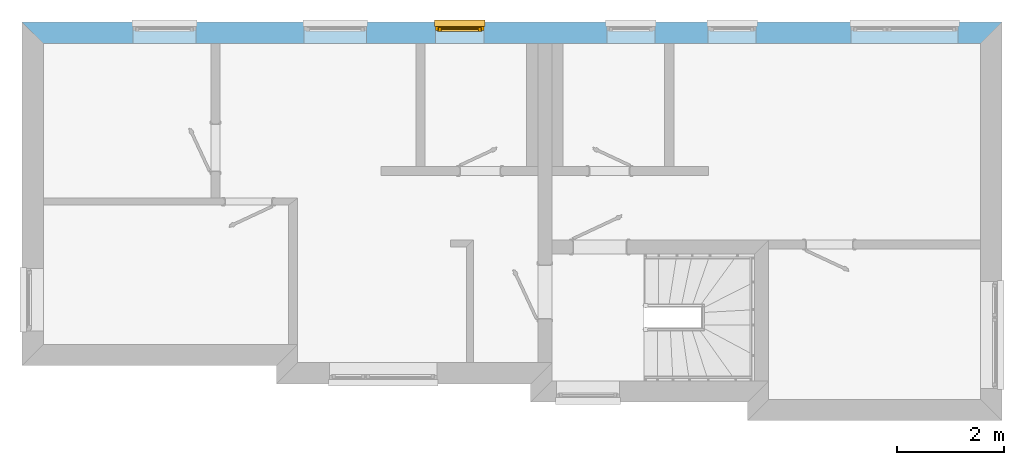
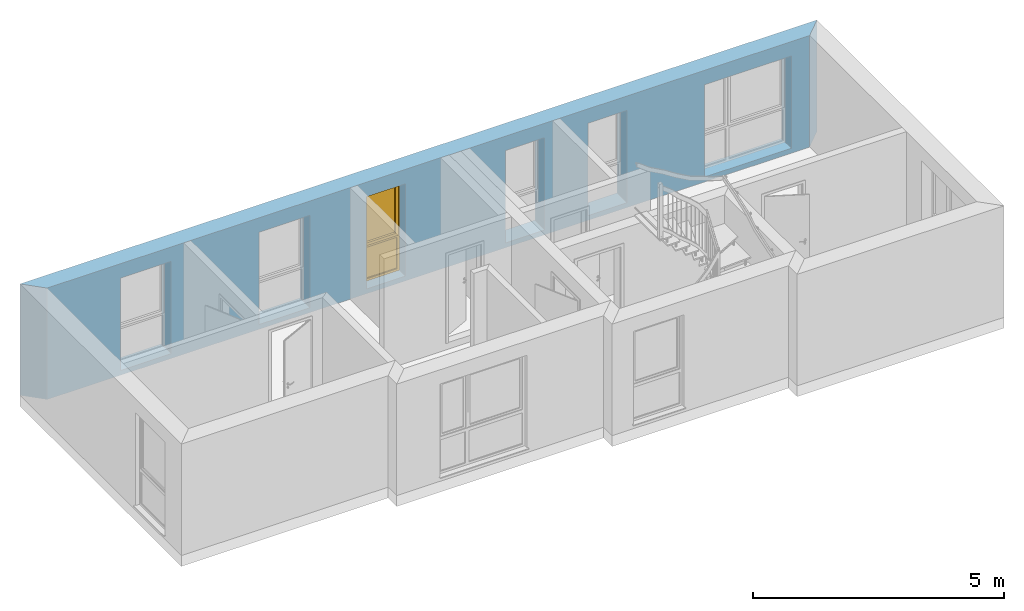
# One storey, part 13 of 16: 1 window, 6 openings, plus 1 element that does not belong to this part.
"""IFC2X3 building model written with IfcOpenShell, lengths in millimetres."""

import ifcopenshell
import ifcopenshell.guid

model = None  # the IFC model being written
_history = None  # IfcOwnerHistory: only IFC2X3 demands one
_inside = {}  # id of a spatial element -> (the spatial element, [elements in it])
_under = {}  # id of a project, library or spatial element -> (it, [spatial elements below it])
_declared = {}  # id of a project -> (the project, [libraries it declares])
_typed = {}  # id of a type object -> (the type object, [elements of that type])
_made_of = {}  # id of a material, layer set ... -> (it, [elements and type objects made of it])


def new_model(schema):
    """Start an empty IFC model of exactly this schema.

    Asked for "IFC4X3", IfcOpenShell would pick the latest addendum, in which some entities
    have other attributes; the version numbers below select the first issue.
    IFC2X3 requires an IfcOwnerHistory on every rooted entity: one is made here for all.
    """
    global model, _history
    if schema == "IFC4X3":
        model = ifcopenshell.file(schema_version=(4, 3, 0, 0))
    else:
        model = ifcopenshell.file(schema=schema)
    _inside.clear()
    _under.clear()
    _declared.clear()
    _typed.clear()
    _made_of.clear()
    _history = None
    if model.schema == "IFC2X3":
        org = make("IfcOrganization", Name="unknown")
        user = make(
            "IfcPersonAndOrganization",
            ThePerson=make("IfcPerson", FamilyName="unknown"),
            TheOrganization=org,
        )
        app = make(
            "IfcApplication",
            ApplicationDeveloper=org,
            Version="unknown",
            ApplicationFullName="unknown",
            ApplicationIdentifier="unknown",
        )
        _history = make(
            "IfcOwnerHistory",
            OwningUser=user,
            OwningApplication=app,
            ChangeAction="ADDED",
            CreationDate=0,
        )
    return model


def make(cls, **values):
    """One entity of the class cls with the attributes given. An attribute that is None is left unset."""
    return model.create_entity(
        cls, **{name: value for name, value in values.items() if value is not None}
    )


def rooted(cls, **values):
    """An entity with a GlobalId (a new one), such as an element, a storey or a relation."""
    return make(cls, GlobalId=ifcopenshell.guid.new(), OwnerHistory=_history, **values)


def si_unit(unit_type, name, prefix=None):
    """IfcSIUnit, for example si_unit("LENGTHUNIT", "METRE", prefix="MILLI")."""
    return make("IfcSIUnit", UnitType=unit_type, Prefix=prefix, Name=name)


def assignment(units):
    """IfcUnitAssignment: the units of a project."""
    return None if units is None else make("IfcUnitAssignment", Units=units)


def point(xyz):
    """IfcCartesianPoint."""
    return None if xyz is None else make("IfcCartesianPoint", Coordinates=xyz)


def direction(xyz):
    """IfcDirection."""
    return None if xyz is None else make("IfcDirection", DirectionRatios=xyz)


def frame(location, z_axis=None, x_axis=None):
    """IfcAxis2Placement3D, a coordinate frame: its origin and axes. An axis left out is left unset."""
    return make(
        "IfcAxis2Placement3D",
        Location=point(location),
        Axis=direction(z_axis),
        RefDirection=direction(x_axis),
    )


def origin_with_axes():
    """The frame at (0, 0, 0) with the z axis (0, 0, 1) and the x axis (1, 0, 0) written out."""
    return frame((0.0, 0.0, 0.0), z_axis=(0.0, 0.0, 1.0), x_axis=(1.0, 0.0, 0.0))


def place(relative_to, where):
    """IfcLocalPlacement: puts the frame where relative to a parent placement (None: the world)."""
    return make(
        "IfcLocalPlacement", PlacementRelTo=relative_to, RelativePlacement=where
    )


def context(
    kind, dimensions, precision=None, world=None, true_north=None, identifier=None
):
    """IfcGeometricRepresentationContext, for example the 3D "Model" context."""
    return make(
        "IfcGeometricRepresentationContext",
        ContextIdentifier=identifier,
        ContextType=kind,
        CoordinateSpaceDimension=dimensions,
        Precision=precision,
        WorldCoordinateSystem=world,
        TrueNorth=true_north,
    )


def project(units=None, contexts=None):
    """IfcProject with its units and contexts."""
    return rooted(
        "IfcProject",
        Name="project",
        RepresentationContexts=contexts,
        UnitsInContext=assignment(units),
    )


def spatial(cls, under=None, at=None, **own):
    """A site, building, storey or space (cls), placed at a placement, below another one or the project."""
    s = rooted(cls, ObjectPlacement=at, **own)
    if under is not None:
        _under.setdefault(under.id(), (under, []))[1].append(s)
    return s


def faces_of(points, faces, orient=None, outer=None):
    """IfcFace entities. A face is a list of loops; a loop is a list of indices into points, from 0.

    orient and outer hold one flag for each loop. By default every Orientation is true, the
    first loop of a face is its IfcFaceOuterBound and the others are IfcFaceBound.
    """
    made = []
    for i, loops in enumerate(faces):
        bounds = []
        for j, loop in enumerate(loops):
            is_outer = j == 0 if outer is None else outer[i][j]
            bounds.append(
                make(
                    "IfcFaceOuterBound" if is_outer else "IfcFaceBound",
                    Bound=make("IfcPolyLoop", Polygon=[points[k] for k in loop]),
                    Orientation=True if orient is None else orient[i][j],
                )
            )
        made.append(make("IfcFace", Bounds=bounds))
    return made


def faceted_brep(points, faces, orient=None, outer=None, voids=None):
    """IfcFacetedBrep: a solid bounded by flat faces; with voids (closed shells), ...WithVoids."""
    shared = [point(p) for p in points]
    hull = make("IfcClosedShell", CfsFaces=faces_of(shared, faces, orient, outer))
    if voids is None:
        return make("IfcFacetedBrep", Outer=hull)
    return make(
        "IfcFacetedBrepWithVoids",
        Outer=hull,
        Voids=[
            make(cls, CfsFaces=faces_of(shared, fs, o, b)) for cls, fs, o, b in voids
        ],
    )


def shape(context_of_items, identifier, shape_type, items):
    """IfcShapeRepresentation: the items that make up one representation, for example the "Body"."""
    return make(
        "IfcShapeRepresentation",
        ContextOfItems=context_of_items,
        RepresentationIdentifier=identifier,
        RepresentationType=shape_type,
        Items=items,
    )


def material(Name=None, Category=None):
    """IfcMaterial."""
    return make("IfcMaterial", Name=Name, Category=Category)


def layer(
    of_material, thickness, ventilated=None, Name=None, Category=None, Priority=None
):
    """IfcMaterialLayer: one layer of a wall or slab, of a material (None: an air gap)."""
    return make(
        "IfcMaterialLayer",
        Material=of_material,
        LayerThickness=thickness,
        IsVentilated=ventilated,
        Name=Name,
        Category=Category,
        Priority=Priority,
    )


def layer_set(layers, Name=None):
    """IfcMaterialLayerSet."""
    return make("IfcMaterialLayerSet", MaterialLayers=layers, LayerSetName=Name)


def layer_usage(for_layer_set, set_direction, sense, offset, extent=None):
    """IfcMaterialLayerSetUsage: how a layer set lies in its element."""
    return make(
        "IfcMaterialLayerSetUsage",
        ForLayerSet=for_layer_set,
        LayerSetDirection=set_direction,
        DirectionSense=sense,
        OffsetFromReferenceLine=offset,
        ReferenceExtent=extent,
    )


def made_of(thing, what):
    """Note that an element or type object is made of a material, layer set ...; save() writes the relation."""
    if what is not None:
        _made_of.setdefault(what.id(), (what, []))[1].append(thing)
    return thing


def type_object(cls, material=None, **own):
    """A type object (cls), such as IfcWallType, which elements share."""
    return made_of(rooted(cls, **own), material)


def element(
    cls,
    number,
    at=None,
    inside=None,
    cuts=None,
    type_object=None,
    material=None,
    context=None,
    identifier="Body",
    shape_type=None,
    held_by="IfcProductDefinitionShape",
    body=None,
    shapes=None,
    **own,
):
    """One element of the class cls, such as IfcWall. Its Tag is "e" and its number.

    at: its placement. inside: the storey or other place that contains it. cuts: it is an
    opening in that element (IfcRelVoidsElement). A single representation is given by context,
    identifier, shape_type and body (its items); several are given by shapes. held_by: the class
    of the entity that holds the representations. save() writes the other relations.
    """
    e = rooted(cls, Tag="e%d" % number, ObjectPlacement=at, **own)
    if body is not None:
        shapes = [shape(context, identifier, shape_type, body)]
    if shapes is not None:
        e.Representation = make(held_by, Representations=shapes)
    if inside is not None:
        _inside.setdefault(inside.id(), (inside, []))[1].append(e)
    if cuts is not None:
        rooted(
            "IfcRelVoidsElement", RelatingBuildingElement=cuts, RelatedOpeningElement=e
        )
    if type_object is not None:
        _typed.setdefault(type_object.id(), (type_object, []))[1].append(e)
    return made_of(e, material)


def fill(opening, filler):
    """IfcRelFillsElement: the door or window that sits in an opening."""
    return rooted(
        "IfcRelFillsElement",
        RelatingOpeningElement=opening,
        RelatedBuildingElement=filler,
    )


def aggregate(whole, parts):
    """IfcRelAggregates: a whole, such as a stair, and the parts it consists of."""
    return rooted("IfcRelAggregates", RelatingObject=whole, RelatedObjects=parts)


def save(model, path):
    """Write the relations noted so far, then the file.

    IfcRelAggregates (storeys below a building ...), IfcRelContainedInSpatialStructure (elements
    in a storey), IfcRelDefinesByType, IfcRelAssociatesMaterial and IfcRelDeclares: one each for
    every whole, place, type object, material and project.
    """
    for whole, parts in _under.values():
        aggregate(whole, parts)
    for where, things in _inside.values():
        rooted(
            "IfcRelContainedInSpatialStructure",
            RelatedElements=things,
            RelatingStructure=where,
        )
    for kind, things in _typed.values():
        rooted("IfcRelDefinesByType", RelatedObjects=things, RelatingType=kind)
    for what, things in _made_of.values():
        rooted("IfcRelAssociatesMaterial", RelatedObjects=things, RelatingMaterial=what)
    for by, libraries in _declared.values():
        rooted("IfcRelDeclares", RelatingContext=by, RelatedDefinitions=libraries)
    model.write(path)


model = new_model("IFC2X3")

# Units and contexts
model_context = context("Model", 3, world=origin_with_axes())
ifc_project = project(units=[si_unit("LENGTHUNIT", "METRE", prefix="MILLI")], contexts=[model_context])

# Site, building, storey
site_placement = place(None, origin_with_axes())
site = spatial("IfcSite", under=ifc_project, at=site_placement, Name="Site", CompositionType="ELEMENT")
building_placement = place(site_placement, origin_with_axes())
building = spatial("IfcBuilding", under=site, at=building_placement, Name="?", CompositionType="ELEMENT")
storey_placement = place(building_placement, frame((0.0, 0.0, 2969.0), z_axis=(0.0, 0.0, 1.0), x_axis=(1.0, 0.0, 0.0)))
storey = spatial("IfcBuildingStorey", under=building, at=storey_placement, Name="Obergeschoß 1", CompositionType="ELEMENT", Elevation=2969.0)

# Wall, openings, window
ifc_material = material(Name="Material_AW")
ifc_layer = layer(ifc_material, 395.0, ventilated=False)
ifc_layer_set = layer_set([ifc_layer], Name="MaterialLayerSet_AW")
ifc_layer_usage = layer_usage(ifc_layer_set, "AXIS2", "NEGATIVE", 197.5)
wall_placement = place(storey_placement, frame((197.5, -197.5, 0.0), z_axis=(0.0, 0.0, 1.0), x_axis=(1.0, 0.0, 0.0)))
wall = element("IfcWall", 1, at=wall_placement, inside=storey, material=ifc_layer_usage, Name="AW-11", context=model_context, shape_type="Brep", body=[
    faceted_brep([(17707.5008600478, -197.5, 0.0), (17707.5008600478, -197.5, 2707.0), (197.5, -197.5, 2707.0), (197.5, -197.5, 0.0), (18102.5001275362, 197.499999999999, 0.0), (18102.5001275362, 197.499999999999, 2707.0), (17707.5008600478, -197.500000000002, 2707.0), (17707.5008600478, -197.500000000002, 0.0), (-197.500233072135, 197.5, 0.0), (-197.500233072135, 197.5, 2707.0), (18102.5001275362, 197.5, 2707.0), (18102.5001275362, 197.5, 0.0), (197.5, -197.5, 0.0), (197.5, -197.5, 2707.0), (-197.500233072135, 197.5, 2707.0), (-197.500233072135, 197.5, 0.0), (197.5, -197.5, 0.0), (-197.500233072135, 197.5, 0.0), (18102.5001275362, 197.5, 0.0), (17707.5008600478, -197.5, 0.0), (-197.500233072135, 197.5, 2707.0), (197.5, -197.5, 2707.0), (17707.5008600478, -197.5, 2707.0), (18102.5001275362, 197.5, 2707.0)], [[[0, 1, 2, 3]], [[4, 5, 6, 7]], [[8, 9, 10, 11]], [[12, 13, 14, 15]], [[16, 17, 18, 19]], [[20, 21, 22, 23]]]),
])
opening_1_placement = place(wall_placement, frame((5067.5, 0.0, 116.0), z_axis=(0.0, 0.0, 1.0), x_axis=(1.0, 0.0, 0.0)))
element("IfcOpeningElement", 2, at=opening_1_placement, cuts=wall, Name="AW-11|FE11", context=model_context, shape_type="Brep", body=[
    faceted_brep([(0.0, 207.5, 0.0), (0.0, 207.5, 2244.0), (1170.0, 207.5, 2244.0), (1170.0, 207.5, 0.0), (0.0, -207.5, 0.0), (0.0, -207.5, 2244.0), (0.0, 207.5, 2244.0), (0.0, 207.5, 0.0), (1170.0, -207.5, 0.0), (0.0, -207.5, 0.0), (0.0, 207.5, 0.0), (1170.0, 207.5, 0.0), (1170.0, -207.5, 2244.0), (1170.0, -207.5, 0.0), (1170.0, 207.5, 0.0), (1170.0, 207.5, 2244.0), (0.0, -207.5, 2244.0), (1170.0, -207.5, 2244.0), (1170.0, 207.5, 2244.0), (0.0, 207.5, 2244.0), (0.0, -207.5, 0.0), (1170.0, -207.5, 0.0), (1170.0, -207.5, 2244.0), (0.0, -207.5, 2244.0)], [[[0, 1, 2, 3]], [[4, 5, 6, 7]], [[8, 9, 10, 11]], [[12, 13, 14, 15]], [[16, 17, 18, 19]], [[20, 21, 22, 23]]]),
])
opening_2_placement = place(wall_placement, frame((10723.5, 0.0, 116.0), z_axis=(0.0, 0.0, 1.0), x_axis=(1.0, 0.0, 0.0)))
element("IfcOpeningElement", 3, at=opening_2_placement, cuts=wall, Name="AW-11|FE13", context=model_context, shape_type="Brep", body=[
    faceted_brep([(0.0, 207.5, 0.0), (0.0, 207.5, 2244.0), (900.0, 207.5, 2244.0), (900.0, 207.5, 0.0), (0.0, -207.5, 0.0), (0.0, -207.5, 2244.0), (0.0, 207.5, 2244.0), (0.0, 207.5, 0.0), (900.0, -207.5, 0.0), (0.0, -207.5, 0.0), (0.0, 207.5, 0.0), (900.0, 207.5, 0.0), (900.0, -207.5, 2244.0), (900.0, -207.5, 0.0), (900.0, 207.5, 0.0), (900.0, 207.5, 2244.0), (0.0, -207.5, 2244.0), (900.0, -207.5, 2244.0), (900.0, 207.5, 2244.0), (0.0, 207.5, 2244.0), (0.0, -207.5, 0.0), (900.0, -207.5, 0.0), (900.0, -207.5, 2244.0), (0.0, -207.5, 2244.0)], [[[0, 1, 2, 3]], [[4, 5, 6, 7]], [[8, 9, 10, 11]], [[12, 13, 14, 15]], [[16, 17, 18, 19]], [[20, 21, 22, 23]]]),
])
opening_3_placement = place(wall_placement, frame((12613.5, 0.0, 116.0), z_axis=(0.0, 0.0, 1.0), x_axis=(1.0, 0.0, 0.0)))
element("IfcOpeningElement", 4, at=opening_3_placement, cuts=wall, Name="AW-11|FE14", context=model_context, shape_type="Brep", body=[
    faceted_brep([(0.0, 207.5, 0.0), (0.0, 207.5, 2244.0), (900.0, 207.5, 2244.0), (900.0, 207.5, 0.0), (0.0, -207.5, 0.0), (0.0, -207.5, 2244.0), (0.0, 207.5, 2244.0), (0.0, 207.5, 0.0), (900.0, -207.5, 0.0), (0.0, -207.5, 0.0), (0.0, 207.5, 0.0), (900.0, 207.5, 0.0), (900.0, -207.5, 2244.0), (900.0, -207.5, 0.0), (900.0, 207.5, 0.0), (900.0, 207.5, 2244.0), (0.0, -207.5, 2244.0), (900.0, -207.5, 2244.0), (900.0, 207.5, 2244.0), (0.0, 207.5, 2244.0), (0.0, -207.5, 0.0), (900.0, -207.5, 0.0), (900.0, -207.5, 2244.0), (0.0, -207.5, 2244.0)], [[[0, 1, 2, 3]], [[4, 5, 6, 7]], [[8, 9, 10, 11]], [[12, 13, 14, 15]], [[16, 17, 18, 19]], [[20, 21, 22, 23]]]),
])
opening_4_placement = place(wall_placement, frame((15287.5, 0.0, 116.0), z_axis=(0.0, 0.0, 1.0), x_axis=(1.0, 0.0, 0.0)))
element("IfcOpeningElement", 5, at=opening_4_placement, cuts=wall, Name="AW-11|FE15", context=model_context, shape_type="Brep", body=[
    faceted_brep([(0.0, 207.5, 0.0), (0.0, 207.5, 2244.0), (2000.0, 207.5, 2244.0), (2000.0, 207.5, 0.0), (0.0, -207.5, 0.0), (0.0, -207.5, 2244.0), (0.0, 207.5, 2244.0), (0.0, 207.5, 0.0), (2000.0, -207.5, 0.0), (0.0, -207.5, 0.0), (0.0, 207.5, 0.0), (2000.0, 207.5, 0.0), (2000.0, -207.5, 2244.0), (2000.0, -207.5, 0.0), (2000.0, 207.5, 0.0), (2000.0, 207.5, 2244.0), (0.0, -207.5, 2244.0), (2000.0, -207.5, 2244.0), (2000.0, 207.5, 2244.0), (0.0, 207.5, 2244.0), (0.0, -207.5, 0.0), (2000.0, -207.5, 0.0), (2000.0, -207.5, 2244.0), (0.0, -207.5, 2244.0)], [[[0, 1, 2, 3]], [[4, 5, 6, 7]], [[8, 9, 10, 11]], [[12, 13, 14, 15]], [[16, 17, 18, 19]], [[20, 21, 22, 23]]]),
])
opening_5_placement = place(wall_placement, frame((7527.5, 0.0, 116.0), z_axis=(0.0, 0.0, 1.0), x_axis=(1.0, 0.0, 0.0)))
opening_5 = element("IfcOpeningElement", 6, at=opening_5_placement, cuts=wall, Name="AW-11|FE12", context=model_context, shape_type="Brep", body=[
    faceted_brep([(0.0, 207.5, 0.0), (0.0, 207.5, 2244.0), (900.0, 207.5, 2244.0), (900.0, 207.5, 0.0), (0.0, -207.5, 0.0), (0.0, -207.5, 2244.0), (0.0, 207.5, 2244.0), (0.0, 207.5, 0.0), (900.0, -207.5, 0.0), (0.0, -207.5, 0.0), (0.0, 207.5, 0.0), (900.0, 207.5, 0.0), (900.0, -207.5, 2244.0), (900.0, -207.5, 0.0), (900.0, 207.5, 0.0), (900.0, 207.5, 2244.0), (0.0, -207.5, 2244.0), (900.0, -207.5, 2244.0), (900.0, 207.5, 2244.0), (0.0, 207.5, 2244.0), (0.0, -207.5, 0.0), (900.0, -207.5, 0.0), (900.0, -207.5, 2244.0), (0.0, -207.5, 2244.0)], [[[0, 1, 2, 3]], [[4, 5, 6, 7]], [[8, 9, 10, 11]], [[12, 13, 14, 15]], [[16, 17, 18, 19]], [[20, 21, 22, 23]]]),
])
opening_6_placement = place(wall_placement, frame((1877.5, 0.0, 116.0), z_axis=(0.0, 0.0, 1.0), x_axis=(1.0, 0.0, 0.0)))
element("IfcOpeningElement", 7, at=opening_6_placement, cuts=wall, Name="AW-11|FE10", context=model_context, shape_type="Brep", body=[
    faceted_brep([(0.0, 207.5, 0.0), (0.0, 207.5, 2244.0), (1170.0, 207.5, 2244.0), (1170.0, 207.5, 0.0), (0.0, -207.5, 0.0), (0.0, -207.5, 2244.0), (0.0, 207.5, 2244.0), (0.0, 207.5, 0.0), (1170.0, -207.5, 0.0), (0.0, -207.5, 0.0), (0.0, 207.5, 0.0), (1170.0, 207.5, 0.0), (1170.0, -207.5, 2244.0), (1170.0, -207.5, 0.0), (1170.0, 207.5, 0.0), (1170.0, 207.5, 2244.0), (0.0, -207.5, 2244.0), (1170.0, -207.5, 2244.0), (1170.0, 207.5, 2244.0), (0.0, 207.5, 2244.0), (0.0, -207.5, 0.0), (1170.0, -207.5, 0.0), (1170.0, -207.5, 2244.0), (0.0, -207.5, 2244.0)], [[[0, 1, 2, 3]], [[4, 5, 6, 7]], [[8, 9, 10, 11]], [[12, 13, 14, 15]], [[16, 17, 18, 19]], [[20, 21, 22, 23]]]),
])
window_style = type_object("IfcWindowStyle", Name="FE12", ConstructionType="NOTDEFINED", OperationType="DOUBLE_PANEL_HORIZONTAL", ParameterTakesPrecedence=True, Sizeable=False)
window_placement = place(opening_5_placement, frame((900.0, 77.5, 0.0), z_axis=(0.0, 0.0, 1.0), x_axis=(-1.0, 0.0, 0.0)))
window = element("IfcWindow", 8, at=window_placement, inside=storey, type_object=window_style, Name="FE12", OverallHeight=2244.0, OverallWidth=900.0, context=model_context, shape_type="Brep", body=[
    faceted_brep([(0.0, -36.0, 0.0), (900.0, -36.0, 0.0), (885.0, -36.0, 15.0), (15.0, -36.0, 15.0), (15.0, 36.0, 15.0), (885.0, 36.0, 15.0), (900.0, 36.0, 0.0), (0.0, 36.0, 0.0), (0.0, 36.0, 0.0), (900.0, 36.0, 0.0), (900.0, -36.0, 0.0), (0.0, -36.0, 0.0), (900.0, -36.0, 0.0), (900.0, -36.0, 2244.0), (885.0, -36.0, 2229.0), (885.0, -36.0, 15.0), (885.0, 36.0, 15.000244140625), (885.0, 36.0, 2229.0), (900.0, 36.0, 2244.0), (900.0, 36.0, 0.000244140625), (900.0, 36.0, 0.0), (900.0, 36.0, 2244.0), (900.0, -36.0, 2244.0), (900.0, -36.0, 0.0), (900.0, -36.0, 2244.0), (0.0, -36.0, 2244.0), (15.0, -36.0, 2229.0), (885.0, -36.0, 2229.0), (885.0, 36.0, 2229.0), (15.0, 36.0, 2229.0), (0.0, 36.0, 2244.0), (900.0, 36.0, 2244.0), (900.0, 36.0, 2244.0), (0.0, 36.0, 2244.0), (0.0, -36.0, 2244.0), (900.0, -36.0, 2244.0), (0.0, -36.0, 2244.0), (0.0, -36.0, 0.0), (15.0, -36.0, 15.0), (15.0, -36.0, 2229.0), (15.0, 36.0, 2229.0), (15.0, 36.0, 15.0), (0.0, 36.0, 0.0), (0.0, 36.0, 2244.0), (0.0, 36.0, 2244.0), (0.0, 36.0, 0.0), (0.0, -36.0, 0.0), (0.0, -36.0, 2244.0), (885.0, 36.0, 855.0), (847.0, 36.0, 817.0), (53.0, 36.0, 817.0), (15.0, 36.0, 855.0), (43.0, 36.0, 883.0), (857.0, 36.0, 883.0), (857.0, 36.0, 883.0), (43.0, 36.0, 883.0), (43.0, -21.0, 883.0), (857.0, -21.0, 883.0), (857.0, -21.0, 883.0), (43.0, -21.0, 883.0), (60.0, -21.0, 900.0), (840.0, -21.0, 900.0), (840.00048828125, -21.0, 900.0), (60.0, -21.0, 900.0), (60.0, -25.0, 900.0), (840.00048828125, -25.0, 900.0), (840.00048828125, -25.0, 900.0), (60.0, -25.0, 900.0), (53.0, -36.0014647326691, 892.999023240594), (847.00048828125, -36.0014647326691, 892.999023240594), (847.00048828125, -36.0, 893.0), (53.0, -36.0, 893.0), (15.0, -36.0, 855.0), (53.0, -36.0, 817.0), (847.00048828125, -36.0, 817.0), (885.00048828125, -36.0, 855.0), (53.0, 36.0, 817.0), (847.0, 36.0, 817.0), (840.0, 24.9985352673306, 809.999023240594), (60.0, 24.9985352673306, 809.999023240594), (60.0, 25.0, 810.0), (840.0, 25.0, 810.0), (840.0, 12.0, 810.0), (60.0, 12.0, 810.0), (60.0, -12.0, 810.0), (840.0, -12.0, 810.0), (840.0, -25.0, 810.0), (60.0, -25.0, 810.0), (60.0, 12.0, 810.0), (840.0, 12.0, 810.0), (857.0, 12.0, 827.0), (43.0, 12.0, 827.0), (43.0, 12.0, 827.0), (857.0, 12.0, 827.0), (857.0, -12.0, 827.0), (43.0, -12.0, 827.0), (43.0, -12.0, 827.0), (857.0, -12.0, 827.0), (840.0, -12.0, 810.0), (60.0, -12.0, 810.0), (60.0, -25.0, 810.0), (840.0, -25.0, 810.0), (847.0, -36.0014647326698, 817.000976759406), (53.0, -36.0014647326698, 817.000976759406), (885.0, 36.0, 2229.0), (885.0, 36.0, 855.0), (857.0, 36.0, 883.0), (857.0, 36.0, 2201.0), (857.0, 36.0, 2200.9990234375), (857.0, 36.0, 882.999023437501), (856.999511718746, -21.0000000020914, 882.999023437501), (856.999511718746, -21.0000000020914, 2200.9990234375), (857.0, -21.0, 2200.9990234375), (857.0, -21.0, 882.9990234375), (840.0, -21.0, 899.9990234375), (840.0, -21.0, 2183.9990234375), (840.0, -21.0, 2183.99951171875), (840.0, -21.0, 899.99951171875), (840.0, -25.0, 899.99951171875), (840.0, -25.0, 2183.99951171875), (840.0, -25.0, 2183.99951171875), (840.0, -25.0, 899.99951171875), (847.000488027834, -36.0017088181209, 892.99951171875), (847.000488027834, -36.0017088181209, 2190.99951171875), (847.0, -36.0, 2191.0), (847.0, -36.0, 893.0), (885.0, -36.0, 855.0), (885.0, -36.0, 2229.0), (15.0, 36.0, 2229.0), (885.0, 36.0, 2229.0), (857.0, 36.0, 2201.0), (43.0, 36.0, 2201.0), (43.0, 36.0, 2201.0), (857.0, 36.0, 2201.0), (857.0, -21.0, 2201.0), (43.0, -21.0, 2201.0), (43.0, -21.0, 2201.0), (857.0, -21.0, 2201.0), (840.0, -21.0, 2184.0), (60.0, -21.0, 2184.0), (60.0, -21.0, 2184.0), (840.0, -21.0, 2184.0), (840.0, -25.0, 2184.0), (60.0, -25.0, 2184.0), (60.0000000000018, -25.0, 2184.0), (840.000000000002, -25.0, 2184.0), (847.000000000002, -36.001464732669, 2191.00097675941), (53.0000000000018, -36.001464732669, 2191.00097675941), (53.0, -36.0, 2191.0), (847.0, -36.0, 2191.0), (885.0, -36.0, 2229.0), (15.0, -36.0, 2229.0), (15.0, 36.0, 855.0), (15.0, 36.0, 2229.0), (43.0, 36.0, 2201.0), (43.0, 36.0, 883.0), (43.0, 36.0, 883.001220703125), (43.0, 36.0, 2201.0009765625), (43.0, -21.0, 2201.0009765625), (43.0, -21.0, 883.001220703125), (43.0, -21.0, 883.001220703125), (43.0, -21.0, 2201.0009765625), (60.0, -21.0, 2184.0009765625), (60.0, -21.0, 900.001220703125), (60.0, -21.0, 900.000732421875), (60.0, -21.0, 2184.0009765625), (60.0, -25.0, 2184.0009765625), (60.0, -25.0, 900.000732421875), (60.0, -25.0, 900.000732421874), (60.0, -25.0, 2184.0009765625), (53.0000001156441, -36.0017091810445, 2191.0009765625), (53.0000001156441, -36.0017091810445, 893.000732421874), (53.0, -36.0, 893.0), (53.0, -36.0, 2191.0), (15.0, -36.0, 2229.0), (15.0, -36.0, 855.0), (885.0, 36.0, 15.0), (15.0, 36.0, 15.0), (53.0, 36.0, 53.0), (847.0, 36.0, 53.0), (847.000488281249, 36.0, 53.0), (53.0, 36.0, 53.0), (60.0, 24.9985352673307, 60.0009767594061), (840.000488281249, 24.9985352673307, 60.0009767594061), (840.0, 25.0, 60.0), (60.0, 25.0, 60.0), (60.0, 12.0, 60.0), (840.0, 12.0, 60.0), (840.0, -12.0, 60.0), (60.0, -12.0, 60.0), (60.0, -25.0, 60.0), (840.0, -25.0, 60.0), (840.0, 12.0, 60.0), (60.0, 12.0, 60.0), (43.0, 12.0, 43.0), (857.0, 12.0, 43.0), (857.0, 12.0, 43.0), (43.0, 12.0, 43.0), (43.0, -12.0, 43.0), (857.0, -12.0, 43.0), (857.0, -12.0, 43.0), (43.0, -12.0, 43.0), (60.0, -12.0, 60.0), (840.0, -12.0, 60.0), (840.0, -25.0, 60.0), (59.9999999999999, -25.0, 60.0), (52.9999999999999, -36.0014647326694, 52.9990232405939), (847.0, -36.0014647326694, 52.9990232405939), (847.00048828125, -36.0, 53.0), (53.0, -36.0, 53.0), (15.0, -36.0, 15.0), (885.00048828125, -36.0, 15.0), (885.0, 36.0, 855.0), (885.0, 36.0, 15.0), (847.0, 36.0, 53.0), (847.0, 36.0, 817.0), (847.0, 36.0, 817.0), (847.0, 36.0, 52.9999999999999), (839.999511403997, 24.9985349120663, 59.9999999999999), (839.999511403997, 24.9985349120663, 810.0), (840.0, 25.0, 809.999267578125), (840.0, 25.0, 59.9992675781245), (840.000488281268, 11.9999999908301, 59.9992675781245), (840.000488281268, 11.9999999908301, 809.999267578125), (840.0009765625, -12.0, 809.999267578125), (840.0009765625, -12.0, 59.999267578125), (840.0009765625, -25.0, 59.999267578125), (840.0009765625, -25.0, 809.999267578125), (840.0, 12.0, 809.999267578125), (840.0, 12.0, 59.999267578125), (857.0, 12.0, 42.999267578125), (857.0, 12.0, 826.999267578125), (857.0, 12.0, 827.000244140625), (857.0, 12.0, 43.000244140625), (857.0, -12.0, 43.000244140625), (857.0, -12.0, 827.000244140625), (857.0, -12.0, 827.000244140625), (857.0, -12.0, 43.000244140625), (840.0, -12.0, 60.000244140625), (840.0, -12.0, 810.000244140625), (840.0, -25.0, 809.999267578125), (840.0, -25.0, 59.9992675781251), (847.000976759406, -36.0014647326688, 52.9992675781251), (847.000976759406, -36.0014647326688, 816.999267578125), (847.0, -36.0, 817.0), (847.0, -36.0, 53.0), (885.0, -36.0, 15.0), (885.0, -36.0, 855.0), (15.0, 36.0, 15.0), (15.0, 36.0, 855.0), (53.0, 36.0, 817.0), (53.0, 36.0, 53.0), (53.0, 36.0, 53.0), (53.0, 36.0, 817.0), (60.0009767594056, 24.9985352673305, 810.0), (60.0009767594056, 24.9985352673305, 60.0), (60.0, 25.0, 60.000732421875), (60.0, 25.0, 810.000732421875), (60.0, 12.0, 810.000732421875), (60.0, 12.0, 60.000732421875), (59.9990234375, -12.0, 60.000732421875), (59.9990234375, -12.0, 810.000732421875), (59.9990234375, -25.0, 810.000732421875), (59.9990234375, -25.0, 60.000732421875), (60.0, 12.0, 60.000732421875), (60.0, 12.0, 810.000732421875), (43.0, 12.0, 827.000732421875), (43.0, 12.0, 43.000732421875), (43.0, 12.0, 43.001220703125), (43.0, 12.0, 827.001220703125), (43.0, -12.0, 827.001220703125), (43.0, -12.0, 43.001220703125), (43.0, -12.0, 43.001220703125), (43.0, -12.0, 827.001220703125), (60.0, -12.0, 810.001220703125), (60.0, -12.0, 60.001220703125), (60.0, -25.0, 60.000732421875), (60.0, -25.0, 810.000732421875), (52.9990232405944, -36.001464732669, 817.000732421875), (52.9990232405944, -36.001464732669, 53.000732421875), (53.0, -36.0, 53.0), (53.0, -36.0, 817.0), (15.0, -36.0, 855.0), (15.0, -36.0, 15.0), (867.00048828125, 52.0, 873.0), (33.0, 52.0, 873.0), (96.0, 52.0, 936.0), (804.00048828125, 52.0, 936.0), (803.999999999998, 52.0, 936.0), (95.9999999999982, 52.0, 936.0), (109.999999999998, 19.9985360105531, 950.00048798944), (789.999999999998, 19.9985360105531, 950.00048798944), (790.00048828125, 20.0, 950.0), (110.0, 20.0, 950.0), (103.0, 20.0, 943.0), (797.00048828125, 20.0, 943.0), (797.0, 20.0, 943.0), (103.0, 20.0, 943.0), (103.0, -4.0, 943.0), (797.0, -4.0, 943.0), (797.0, -4.0, 943.0), (103.0, -4.0, 943.0), (110.0, -4.0, 950.0), (790.0, -4.0, 950.0), (790.000488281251, -4.0, 950.0), (110.0, -4.0, 950.0), (102.0, -21.0014648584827, 941.999267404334), (798.000488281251, -21.0014648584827, 941.999267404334), (798.0, -21.0, 942.0), (102.0, -21.0, 942.0), (51.0, -21.0, 891.0), (849.0, -21.0, 891.0), (849.0, -21.0, 891.0), (51.0, -21.0, 891.0), (51.0, 36.0, 891.0), (849.0, 36.0, 891.0), (849.0, 36.0, 891.0), (51.0, 36.0, 891.0), (33.0, 36.0, 873.0), (867.0, 36.0, 873.0), (867.00048828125, 36.0, 873.0), (33.0, 36.0, 873.0), (33.0, 52.0, 873.0), (867.00048828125, 52.0, 873.0), (867.0, 52.0, 2210.9990234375), (867.0, 52.0, 872.9990234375), (804.0, 52.0, 935.9990234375), (804.0, 52.0, 2147.9990234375), (804.0, 52.0, 2147.99853515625), (804.0, 52.0, 935.99853515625), (789.999023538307, 19.998780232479, 949.99853515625), (789.999023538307, 19.998780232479, 2133.99853515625), (790.0, 20.0, 2133.9990234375), (790.0, 20.0, 949.9990234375), (797.0, 20.0, 942.9990234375), (797.0, 20.0, 2140.9990234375), (797.0, 20.0, 2140.99951171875), (797.0, 20.0, 942.99951171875), (797.0, -4.0, 942.99951171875), (797.0, -4.0, 2140.99951171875), (797.0, -4.0, 2140.99951171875), (797.0, -4.0, 942.99951171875), (790.0, -4.0, 949.99951171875), (790.0, -4.0, 2133.99951171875), (790.0, -4.00000000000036, 2133.9990234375), (790.0, -4.00000000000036, 949.9990234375), (798.000488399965, -21.001708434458, 941.9990234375), (798.000488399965, -21.001708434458, 2141.9990234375), (798.0, -21.0, 2141.99951171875), (798.0, -21.0, 941.99951171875), (849.0, -21.0, 890.99951171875), (849.0, -21.0, 2192.99951171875), (849.0, -21.0, 2192.99951171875), (849.0, -21.0, 890.99951171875), (849.0, 36.0, 890.99951171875), (849.0, 36.0, 2192.99951171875), (849.0, 36.0, 2192.99951171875), (849.0, 36.0, 890.99951171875), (867.0, 36.0, 872.99951171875), (867.0, 36.0, 2210.99951171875), (867.0, 36.0, 2210.9990234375), (867.0, 36.0, 872.9990234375), (866.99951171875, 52.0000000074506, 872.9990234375), (866.99951171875, 52.0000000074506, 2210.9990234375), (33.0, 52.0, 2211.0), (867.0, 52.0, 2211.0), (804.0, 52.0, 2148.0), (96.0, 52.0, 2148.0), (96.0000000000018, 52.0, 2148.0), (804.000000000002, 52.0, 2148.0), (790.000000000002, 19.9985360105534, 2133.99951201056), (110.000000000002, 19.9985360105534, 2133.99951201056), (110.0, 20.0, 2134.0), (790.0, 20.0, 2134.0), (797.0, 20.0, 2141.0), (103.0, 20.0, 2141.0), (103.0, 20.0, 2141.0), (797.0, 20.0, 2141.0), (797.0, -4.0, 2141.0), (103.0, -4.0, 2141.0), (103.0, -4.0, 2141.0), (797.0, -4.0, 2141.0), (790.0, -4.0, 2134.0), (110.0, -4.0, 2134.0), (110.0, -4.0, 2134.0), (790.0, -4.0, 2134.0), (798.0, -21.0014648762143, 2142.00048841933), (102.0, -21.0014648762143, 2142.00048841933), (102.0, -21.0, 2142.0), (798.0, -21.0, 2142.0), (849.0, -21.0, 2193.0), (51.0, -21.0, 2193.0), (51.0, -21.0, 2193.0), (849.0, -21.0, 2193.0), (849.0, 36.0, 2193.0), (51.0, 36.0, 2193.0), (51.0, 36.0, 2193.0), (849.0, 36.0, 2193.0), (867.0, 36.0, 2211.0), (33.0, 36.0, 2211.0), (33.0, 36.0, 2211.0), (867.0, 36.0, 2211.0), (867.0, 52.0, 2211.0), (33.0, 52.0, 2211.0), (33.0, 52.0, 873.0009765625), (33.0, 52.0, 2211.0009765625), (96.0, 52.0, 2148.0009765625), (96.0, 52.0, 936.0009765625), (96.0, 52.0, 936.001220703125), (96.0, 52.0, 2148.0009765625), (110.000976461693, 19.9987802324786, 2134.0009765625), (110.000976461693, 19.9987802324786, 950.001220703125), (110.0, 20.0, 950.001220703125), (110.0, 20.0, 2134.0009765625), (103.0, 20.0, 2141.0009765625), (103.0, 20.0, 943.001220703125), (103.0, 20.0, 943.00048828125), (103.0, 20.0, 2141.00048828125), (103.0, -4.0, 2141.00048828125), (103.0, -4.0, 943.00048828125), (103.0, -4.0, 943.00048828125), (103.0, -4.0, 2141.00048828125), (110.0, -4.0, 2134.00048828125), (110.0, -4.0, 950.00048828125), (110.0, -4.0, 950.001220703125), (110.0, -4.0, 2134.0009765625), (101.999023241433, -21.0017095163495, 2142.0009765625), (101.999023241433, -21.0017095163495, 942.001220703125), (102.0, -21.0, 942.00048828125), (102.0, -21.0, 2142.00048828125), (51.0, -21.0, 2193.00048828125), (51.0, -21.0, 891.00048828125), (51.0, -21.0, 891.00048828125), (51.0, -21.0, 2193.00048828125), (51.0, 36.0, 2193.00048828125), (51.0, 36.0, 891.00048828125), (51.0, 36.0, 891.00048828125), (51.0, 36.0, 2193.00048828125), (33.0, 36.0, 2211.00048828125), (33.0, 36.0, 873.00048828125), (33.0, 36.0, 873.0009765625), (33.0, 36.0, 2211.0009765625), (33.0, 52.0, 2211.0009765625), (33.0, 52.0, 873.0009765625), (110.0, 20.0, 950.0), (110.0, 20.0, 2134.0), (790.0, 20.0, 2134.0), (790.0, 20.0, 950.0), (110.0, -4.0, 950.0), (790.0, -4.0, 950.0), (790.0, -4.0, 2134.0), (110.0, -4.0, 2134.0), (60.0, 12.0, 60.0), (60.0, 12.0, 810.0), (840.0, 12.0, 810.0), (840.0, 12.0, 60.0), (60.0, -12.0, 60.0), (840.0, -12.0, 60.0), (840.0, -12.0, 810.0), (60.0, -12.0, 810.0), (-20.0, -36.0, 0.5), (-20.0, -160.0, 0.5), (920.0, -160.0, 0.5), (920.0, -36.0, 0.5), (-20.0, -36.0, -19.5), (-20.0, -36.0, 0.5), (920.0, -36.0, 0.5), (920.0, -36.0, -19.5), (-20.0, -160.0, -19.5), (-20.0, -36.0, -19.5), (920.0, -36.0, -19.5), (920.0, -160.0, -19.5), (-20.0, -160.0, 0.5), (-20.0, -160.0, -19.5), (920.0, -160.0, -19.5), (920.0, -160.0, 0.5), (-20.0, -160.0, -19.5), (-20.0, -160.0, 0.5), (-20.0, -36.0, 0.5), (-20.0, -36.0, -19.5), (920.0, -160.0, 0.5), (920.0, -160.0, -19.5), (920.0, -36.0, -19.5), (920.0, -36.0, 0.5)], [[[0, 1, 2, 3]], [[4, 5, 6, 7]], [[8, 9, 10, 11]], [[12, 13, 14, 15]], [[16, 17, 18, 19]], [[20, 21, 22, 23]], [[24, 25, 26, 27]], [[28, 29, 30, 31]], [[32, 33, 34, 35]], [[36, 37, 38, 39]], [[40, 41, 42, 43]], [[44, 45, 46, 47]], [[48, 49, 50, 51, 52, 53]], [[54, 55, 56, 57]], [[58, 59, 60, 61]], [[62, 63, 64, 65]], [[66, 67, 68, 69]], [[70, 71, 72, 73, 74, 75]], [[76, 77, 78, 79]], [[80, 81, 82, 83]], [[84, 85, 86, 87]], [[88, 89, 90, 91]], [[92, 93, 94, 95]], [[96, 97, 98, 99]], [[100, 101, 102, 103]], [[104, 105, 106, 107]], [[108, 109, 110, 111]], [[112, 113, 114, 115]], [[116, 117, 118, 119]], [[120, 121, 122, 123]], [[124, 125, 126, 127]], [[128, 129, 130, 131]], [[132, 133, 134, 135]], [[136, 137, 138, 139]], [[140, 141, 142, 143]], [[144, 145, 146, 147]], [[148, 149, 150, 151]], [[152, 153, 154, 155]], [[156, 157, 158, 159]], [[160, 161, 162, 163]], [[164, 165, 166, 167]], [[168, 169, 170, 171]], [[172, 173, 174, 175]], [[176, 177, 178, 179]], [[180, 181, 182, 183]], [[184, 185, 186, 187]], [[188, 189, 190, 191]], [[192, 193, 194, 195]], [[196, 197, 198, 199]], [[200, 201, 202, 203]], [[204, 205, 206, 207]], [[208, 209, 210, 211]], [[212, 213, 214, 215]], [[216, 217, 218, 219]], [[220, 221, 222, 223]], [[224, 225, 226, 227]], [[228, 229, 230, 231]], [[232, 233, 234, 235]], [[236, 237, 238, 239]], [[240, 241, 242, 243]], [[244, 245, 246, 247]], [[248, 249, 250, 251]], [[252, 253, 254, 255]], [[256, 257, 258, 259]], [[260, 261, 262, 263]], [[264, 265, 266, 267]], [[268, 269, 270, 271]], [[272, 273, 274, 275]], [[276, 277, 278, 279]], [[280, 281, 282, 283]], [[284, 285, 286, 287]], [[288, 289, 290, 291]], [[292, 293, 294, 295]], [[296, 297, 298, 299]], [[300, 301, 302, 303]], [[304, 305, 306, 307]], [[308, 309, 310, 311]], [[312, 313, 314, 315]], [[316, 317, 318, 319]], [[320, 321, 322, 323]], [[324, 325, 326, 327]], [[328, 329, 330, 331]], [[332, 333, 334, 335]], [[336, 337, 338, 339]], [[340, 341, 342, 343]], [[344, 345, 346, 347]], [[348, 349, 350, 351]], [[352, 353, 354, 355]], [[356, 357, 358, 359]], [[360, 361, 362, 363]], [[364, 365, 366, 367]], [[368, 369, 370, 371]], [[372, 373, 374, 375]], [[376, 377, 378, 379]], [[380, 381, 382, 383]], [[384, 385, 386, 387]], [[388, 389, 390, 391]], [[392, 393, 394, 395]], [[396, 397, 398, 399]], [[400, 401, 402, 403]], [[404, 405, 406, 407]], [[408, 409, 410, 411]], [[412, 413, 414, 415]], [[416, 417, 418, 419]], [[420, 421, 422, 423]], [[424, 425, 426, 427]], [[428, 429, 430, 431]], [[432, 433, 434, 435]], [[436, 437, 438, 439]], [[440, 441, 442, 443]], [[444, 445, 446, 447]], [[448, 449, 450, 451]], [[452, 453, 454, 455]], [[456, 457, 458, 459]], [[460, 461, 462, 463]], [[464, 465, 466, 467]], [[468, 469, 470, 471]], [[472, 473, 474, 475]], [[476, 477, 478, 479]], [[480, 481, 482, 483]]]),
])
fill(opening_5, window)

save(model, "model.ifc")
